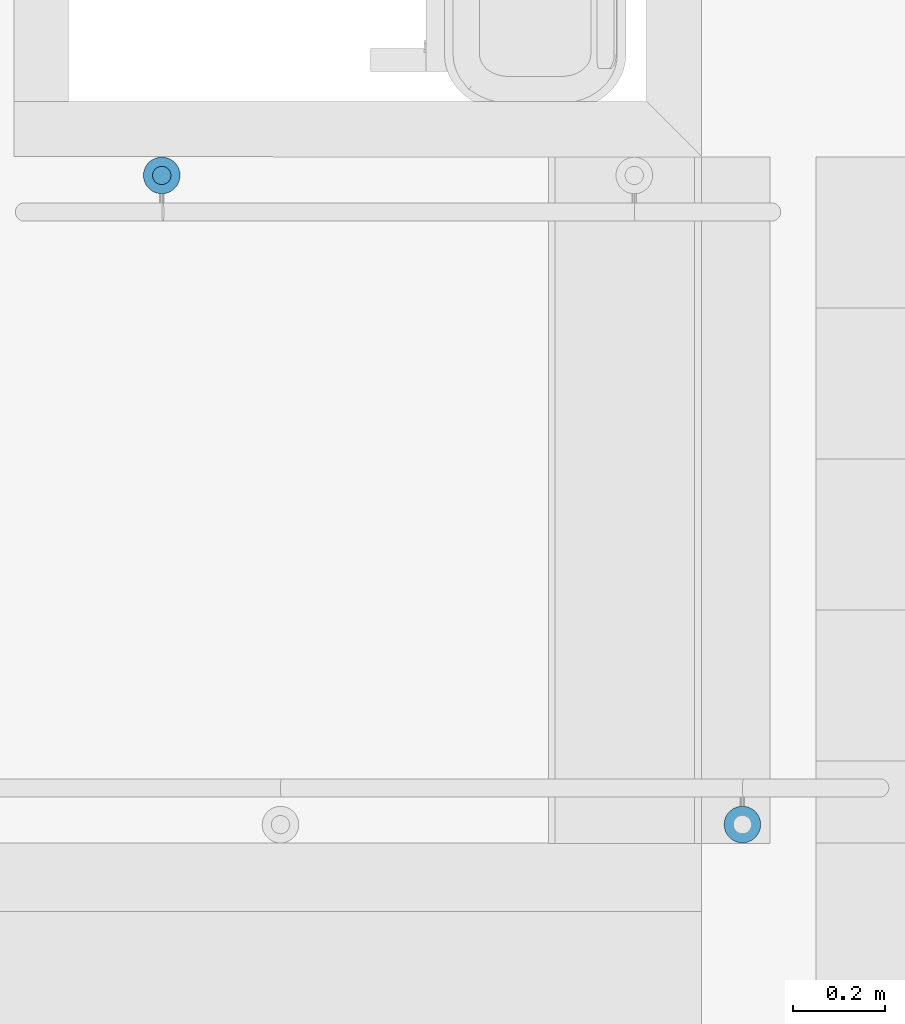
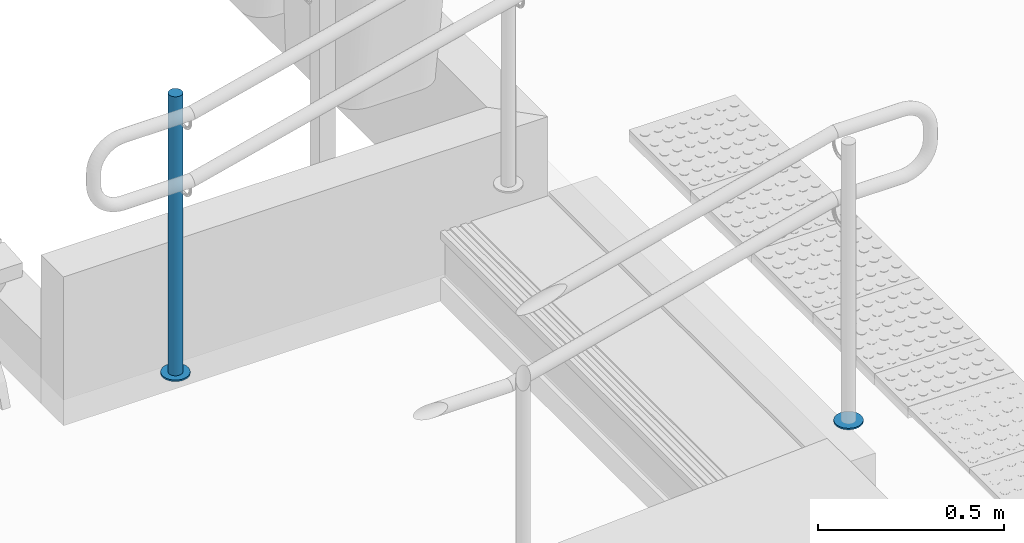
# One storey, part 90 of 237: 3 building element parts, 2 elements without a shape of their own.
"""IFC2X3 building model written with IfcOpenShell, lengths in millimetres."""

from ifc_helpers import new_model, entity, si_unit, converted_unit, derived_unit, money_unit, direction, frame, origin_with_axes, place, context, subcontext, project, spatial, faceted_brep, material, type_object, element, aggregate, save


model = new_model("IFC2X3")

# Units and contexts
model_context = context("Model", 3, precision=0.01, world=origin_with_axes(), true_north=direction((0.0, 1.0)))
body_context = subcontext(model_context, "Body", "Model", "MODEL_VIEW")
ifc_project = project(units=[si_unit("LENGTHUNIT", "METRE", prefix="MILLI"), si_unit("AREAUNIT", "SQUARE_METRE"), si_unit("VOLUMEUNIT", "CUBIC_METRE"), converted_unit("PLANEANGLEUNIT", "DEGREE", entity("IfcPlaneAngleMeasure", 0.0174532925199), si_unit("PLANEANGLEUNIT", "RADIAN"), dimensions=[0, 0, 0, 0, 0, 0, 0]), money_unit("USD"), converted_unit("TIMEUNIT", "Year", entity("IfcTimeMeasure", 31556926.0), si_unit("TIMEUNIT", "SECOND"), dimensions=[0, 0, 1, 0, 0, 0, 0]), si_unit("MASSUNIT", "GRAM", prefix="KILO"), si_unit("THERMODYNAMICTEMPERATUREUNIT", "DEGREE_CELSIUS"), si_unit("LUMINOUSINTENSITYUNIT", "LUMEN"), si_unit("ENERGYUNIT", "JOULE", prefix="MEGA"), derived_unit("THERMALCONDUCTANCEUNIT", [(si_unit("POWERUNIT", "WATT"), 1), (si_unit("LENGTHUNIT", "METRE"), -1), (si_unit("THERMODYNAMICTEMPERATUREUNIT", "KELVIN"), -1)]), derived_unit("SPECIFICHEATCAPACITYUNIT", [(si_unit("ENERGYUNIT", "JOULE"), 1), (si_unit("MASSUNIT", "GRAM", prefix="KILO"), -1), (si_unit("THERMODYNAMICTEMPERATUREUNIT", "KELVIN"), -1)]), derived_unit("MASSDENSITYUNIT", [(si_unit("MASSUNIT", "GRAM", prefix="KILO"), 1), (si_unit("VOLUMEUNIT", "CUBIC_METRE"), -1)])], contexts=[model_context])

# Site, building, storey
site_placement = place(None, origin_with_axes())
site = spatial("IfcSite", under=ifc_project, at=site_placement, Name="Local", CompositionType="ELEMENT")
building_placement = place(site_placement, origin_with_axes())
building = spatial("IfcBuilding", under=site, at=building_placement, Name="Construção", CompositionType="ELEMENT")
storey_placement = place(building_placement, origin_with_axes())
storey = spatial("IfcBuildingStorey", under=building, at=storey_placement, Name="Pavimento Térreo", CompositionType="ELEMENT", Elevation=0.0)

# Railing, building element parts
railing_type = type_object("IfcRailingType", Name="Tipo de Guarda-Corpo", PredefinedType="NOTDEFINED")
railing_1_placement = place(storey_placement, frame((53321.2844677, 26654.8714921, -1624.61279054), z_axis=(0.0, 0.0, 1.0), x_axis=(1.0, 0.0, 0.0)))
railing_1 = element("IfcRailing", 1, at=railing_1_placement, inside=storey, type_object=railing_type, Name="Guarda-Corpo - 001", PredefinedType="NOTDEFINED")
ifc_material_1 = material(Name="Aço - Inoxidável")
building_element_part_1_placement = place(railing_1_placement, origin_with_axes())
building_element_part_1 = element("IfcBuildingElementPart", 2, at=building_element_part_1_placement, material=ifc_material_1, Name="Aço - Inoxidável", context=body_context, shape_type="Brep", body=[
    faceted_brep([(-5435.16584143, -20.3038449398, 14.9461964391), (-5438.63880498, -20.0, 14.9461964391), (-5438.63880498, -20.0, 929.946196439), (-5435.16584143, -20.3038449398, 929.946196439), (-5442.11176853, -20.3038449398, 14.9461964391), (-5431.79840211, -21.2061475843, 14.9461964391), (-5428.63880498, -22.6794919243, 14.9461964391), (-5425.78305279, -24.6791111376, 14.9461964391), (-5423.31791612, -27.1442478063, 14.9461964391), (-5421.3182969, -30.0, 14.9461964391), (-5419.84495256, -33.1595971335, 14.9461964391), (-5418.94264992, -36.5270364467, 14.9461964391), (-5418.63880498, -40.0, 14.9461964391), (-5418.94264992, -43.4729635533, 14.9461964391), (-5419.84495256, -46.8404028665, 14.9461964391), (-5421.3182969, -50.0, 14.9461964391), (-5423.31791612, -52.8557521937, 14.9461964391), (-5425.78305279, -55.3208888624, 14.9461964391), (-5428.63880498, -57.3205080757, 14.9461964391), (-5431.79840211, -58.7938524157, 14.9461964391), (-5435.16584143, -59.6961550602, 14.9461964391), (-5438.63880498, -60.0, 14.9461964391), (-5442.11176853, -59.6961550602, 14.9461964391), (-5445.47920785, -58.7938524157, 14.9461964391), (-5448.63880498, -57.3205080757, 14.9461964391), (-5451.49455717, -55.3208888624, 14.9461964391), (-5453.95969384, -52.8557521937, 14.9461964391), (-5455.95931306, -50.0, 14.9461964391), (-5457.4326574, -46.8404028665, 14.9461964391), (-5458.33496004, -43.4729635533, 14.9461964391), (-5458.63880498, -40.0, 14.9461964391), (-5458.33496004, -36.5270364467, 14.9461964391), (-5457.4326574, -33.1595971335, 14.9461964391), (-5455.95931306, -30.0, 14.9461964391), (-5453.95969384, -27.1442478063, 14.9461964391), (-5451.49455717, -24.6791111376, 14.9461964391), (-5448.63880498, -22.6794919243, 14.9461964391), (-5445.47920785, -21.2061475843, 14.9461964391), (-5442.11176853, -20.3038449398, 929.946196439), (-5418.94264992, -43.4729635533, 929.946196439), (-5418.63880498, -40.0, 929.946196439), (-5418.94264992, -36.5270364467, 929.946196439), (-5419.84495256, -33.1595971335, 929.946196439), (-5421.3182969, -30.0, 929.946196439), (-5423.31791612, -27.1442478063, 929.946196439), (-5425.78305279, -24.6791111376, 929.946196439), (-5428.63880498, -22.6794919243, 929.946196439), (-5431.79840211, -21.2061475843, 929.946196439), (-5445.47920785, -21.2061475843, 929.946196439), (-5448.63880498, -22.6794919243, 929.946196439), (-5451.49455717, -24.6791111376, 929.946196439), (-5453.95969384, -27.1442478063, 929.946196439), (-5455.95931306, -30.0, 929.946196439), (-5457.4326574, -33.1595971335, 929.946196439), (-5458.33496004, -36.5270364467, 929.946196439), (-5458.63880498, -40.0, 929.946196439), (-5458.33496004, -43.4729635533, 929.946196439), (-5457.4326574, -46.8404028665, 929.946196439), (-5455.95931306, -50.0, 929.946196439), (-5453.95969384, -52.8557521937, 929.946196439), (-5451.49455717, -55.3208888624, 929.946196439), (-5448.63880498, -57.3205080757, 929.946196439), (-5445.47920785, -58.7938524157, 929.946196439), (-5442.11176853, -59.6961550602, 929.946196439), (-5438.63880498, -60.0, 929.946196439), (-5435.16584143, -59.6961550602, 929.946196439), (-5431.79840211, -58.7938524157, 929.946196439), (-5428.63880498, -57.3205080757, 929.946196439), (-5425.78305279, -55.3208888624, 929.946196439), (-5423.31791612, -52.8557521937, 929.946196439), (-5421.3182969, -50.0, 929.946196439), (-5419.84495256, -46.8404028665, 929.946196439)], [[[0, 1, 2, 3]], [[4, 1, 0, 5, 6, 7, 8, 9, 10, 11, 12, 13, 14, 15, 16, 17, 18, 19, 20, 21, 22, 23, 24, 25, 26, 27, 28, 29, 30, 31, 32, 33, 34, 35, 36, 37]], [[1, 4, 38, 2]], [[39, 40, 41, 42, 43, 44, 45, 46, 47, 3, 2, 38, 48, 49, 50, 51, 52, 53, 54, 55, 56, 57, 58, 59, 60, 61, 62, 63, 64, 65, 66, 67, 68, 69, 70, 71]], [[5, 0, 3, 47]], [[6, 5, 47, 46]], [[7, 6, 46, 45]], [[8, 7, 45, 44]], [[9, 8, 44, 43]], [[10, 9, 43, 42]], [[11, 10, 42, 41]], [[12, 11, 41, 40]], [[13, 12, 40, 39]], [[14, 13, 39, 71]], [[15, 14, 71, 70]], [[16, 15, 70, 69]], [[17, 16, 69, 68]], [[18, 17, 68, 67]], [[19, 18, 67, 66]], [[20, 19, 66, 65]], [[21, 20, 65, 64]], [[22, 21, 64, 63]], [[23, 22, 63, 62]], [[24, 23, 62, 61]], [[25, 24, 61, 60]], [[26, 25, 60, 59]], [[27, 26, 59, 58]], [[28, 27, 58, 57]], [[29, 28, 57, 56]], [[30, 29, 56, 55]], [[31, 30, 55, 54]], [[32, 31, 54, 53]], [[33, 32, 53, 52]], [[34, 33, 52, 51]], [[35, 34, 51, 50]], [[36, 35, 50, 49]], [[37, 36, 49, 48]], [[4, 37, 48, 38]]]),
])
ifc_material_2 = material(Name="Alumínio")
building_element_part_2_placement = place(railing_1_placement, origin_with_axes())
building_element_part_2 = element("IfcBuildingElementPart", 3, at=building_element_part_2_placement, material=ifc_material_2, Name="Alumínio", context=body_context, shape_type="Brep", body=[
    faceted_brep([(-5478.63880498, -40.0, 9.94619643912), (-5478.0311151, -46.9459271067, 9.94619643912), (-5478.0311151, -46.9459271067, 14.9461964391), (-5478.63880498, -40.0, 14.9461964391), (-5478.0311151, -33.0540728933, 9.94619643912), (-5476.22650981, -26.319194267, 9.94619643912), (-5473.27982113, -20.0, 9.94619643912), (-5469.28058271, -14.2884956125, 9.94619643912), (-5464.35030937, -9.35822227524, 9.94619643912), (-5458.63880498, -5.35898384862, 9.94619643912), (-5452.31961071, -2.41229516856, 9.94619643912), (-5445.58473209, -0.607689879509, 9.94619643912), (-5438.63880498, 0.0, 9.94619643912), (-5431.69287787, -0.607689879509, 9.94619643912), (-5424.95799925, -2.41229516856, 9.94619643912), (-5418.63880498, -5.35898384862, 9.94619643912), (-5412.92730059, -9.35822227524, 9.94619643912), (-5407.99702726, -14.2884956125, 9.94619643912), (-5403.99778883, -20.0, 9.94619643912), (-5401.05110015, -26.319194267, 9.94619643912), (-5399.24649486, -33.0540728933, 9.94619643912), (-5398.63880498, -40.0, 9.94619643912), (-5399.24649486, -46.9459271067, 9.94619643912), (-5401.05110015, -53.680805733, 9.94619643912), (-5403.99778883, -60.0, 9.94619643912), (-5407.99702726, -65.7115043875, 9.94619643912), (-5412.92730059, -70.6417777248, 9.94619643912), (-5418.63880498, -74.6410161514, 9.94619643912), (-5424.95799925, -77.5877048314, 9.94619643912), (-5431.69287787, -79.3923101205, 9.94619643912), (-5438.63880498, -80.0, 9.94619643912), (-5445.58473209, -79.3923101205, 9.94619643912), (-5452.31961071, -77.5877048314, 9.94619643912), (-5458.63880498, -74.6410161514, 9.94619643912), (-5464.35030937, -70.6417777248, 9.94619643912), (-5469.28058271, -65.7115043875, 9.94619643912), (-5473.27982113, -60.0, 9.94619643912), (-5476.22650981, -53.680805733, 9.94619643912), (-5476.22650981, -53.680805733, 14.9461964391), (-5473.27982113, -60.0, 14.9461964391), (-5469.28058271, -65.7115043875, 14.9461964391), (-5464.35030937, -70.6417777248, 14.9461964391), (-5458.63880498, -74.6410161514, 14.9461964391), (-5452.31961071, -77.5877048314, 14.9461964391), (-5445.58473209, -79.3923101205, 14.9461964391), (-5438.63880498, -80.0, 14.9461964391), (-5431.69287787, -79.3923101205, 14.9461964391), (-5424.95799925, -77.5877048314, 14.9461964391), (-5418.63880498, -74.6410161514, 14.9461964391), (-5412.92730059, -70.6417777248, 14.9461964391), (-5407.99702726, -65.7115043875, 14.9461964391), (-5403.99778883, -60.0, 14.9461964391), (-5401.05110015, -53.680805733, 14.9461964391), (-5399.24649486, -46.9459271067, 14.9461964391), (-5398.63880498, -40.0, 14.9461964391), (-5399.24649486, -33.0540728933, 14.9461964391), (-5401.05110015, -26.319194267, 14.9461964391), (-5403.99778883, -20.0, 14.9461964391), (-5407.99702726, -14.2884956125, 14.9461964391), (-5412.92730059, -9.35822227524, 14.9461964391), (-5418.63880498, -5.35898384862, 14.9461964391), (-5424.95799925, -2.41229516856, 14.9461964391), (-5431.69287787, -0.607689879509, 14.9461964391), (-5438.63880498, 0.0, 14.9461964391), (-5445.58473209, -0.607689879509, 14.9461964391), (-5452.31961071, -2.41229516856, 14.9461964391), (-5458.63880498, -5.35898384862, 14.9461964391), (-5464.35030937, -9.35822227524, 14.9461964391), (-5469.28058271, -14.2884956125, 14.9461964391), (-5473.27982113, -20.0, 14.9461964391), (-5476.22650981, -26.319194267, 14.9461964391), (-5478.0311151, -33.0540728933, 14.9461964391)], [[[0, 1, 2, 3]], [[0, 4, 5, 6, 7, 8, 9, 10, 11, 12, 13, 14, 15, 16, 17, 18, 19, 20, 21, 22, 23, 24, 25, 26, 27, 28, 29, 30, 31, 32, 33, 34, 35, 36, 37, 1]], [[1, 37, 38, 2]], [[3, 2, 38, 39, 40, 41, 42, 43, 44, 45, 46, 47, 48, 49, 50, 51, 52, 53, 54, 55, 56, 57, 58, 59, 60, 61, 62, 63, 64, 65, 66, 67, 68, 69, 70, 71]], [[4, 0, 3, 71]], [[5, 4, 71, 70]], [[6, 5, 70, 69]], [[7, 6, 69, 68]], [[8, 7, 68, 67]], [[9, 8, 67, 66]], [[10, 9, 66, 65]], [[11, 10, 65, 64]], [[12, 11, 64, 63]], [[13, 12, 63, 62]], [[14, 13, 62, 61]], [[15, 14, 61, 60]], [[16, 15, 60, 59]], [[17, 16, 59, 58]], [[18, 17, 58, 57]], [[19, 18, 57, 56]], [[20, 19, 56, 55]], [[21, 20, 55, 54]], [[22, 21, 54, 53]], [[23, 22, 53, 52]], [[24, 23, 52, 51]], [[25, 24, 51, 50]], [[26, 25, 50, 49]], [[27, 26, 49, 48]], [[28, 27, 48, 47]], [[29, 28, 47, 46]], [[30, 29, 46, 45]], [[31, 30, 45, 44]], [[32, 31, 44, 43]], [[33, 32, 43, 42]], [[34, 33, 42, 41]], [[35, 34, 41, 40]], [[36, 35, 40, 39]], [[37, 36, 39, 38]]]),
])
aggregate(railing_1, [building_element_part_1, building_element_part_2])

# Railing, building element part
railing_2_placement = place(storey_placement, frame((44000.0, 26000.0, -1614.15280207), z_axis=(0.0, 0.0, 1.0), x_axis=(1.0, 0.0, 0.0)))
railing_2 = element("IfcRailing", 4, at=railing_2_placement, inside=storey, type_object=railing_type, Name="Guarda-Corpo - 001", PredefinedType="NOTDEFINED")
building_element_part_3_placement = place(railing_2_placement, origin_with_axes())
building_element_part_3 = element("IfcBuildingElementPart", 5, at=building_element_part_3_placement, material=ifc_material_2, Name="Alumínio", context=body_context, shape_type="Brep", body=[
    faceted_brep([(5191.63104304, -803.707398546, 257.278068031), (5191.02188919, -796.761599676, 257.278068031), (5191.02188919, -796.761599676, 262.278068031), (5191.63104304, -803.707398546, 262.278068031), (5191.02481716, -810.65345358, 257.278068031), (5189.22163141, -817.388712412, 257.278068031), (5186.27627469, -823.708527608, 257.278068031), (5182.27824015, -829.420874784, 257.278068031), (5177.34900608, -834.35218716, 257.278068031), (5171.63834473, -838.352629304, 257.278068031), (5165.31977167, -841.300649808, 257.278068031), (5158.58527355, -843.10667456, 257.278068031), (5151.63947468, -843.71582841, 257.278068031), (5144.69341965, -843.109602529, 257.278068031), (5137.95816081, -841.306416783, 257.278068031), (5131.63834562, -838.361060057, 257.278068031), (5125.92599844, -834.363025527, 257.278068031), (5120.99468607, -829.433791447, 257.278068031), (5116.99424392, -823.723130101, 257.278068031), (5114.04622342, -817.404557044, 257.278068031), (5112.24019867, -810.670058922, 257.278068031), (5111.63104482, -803.724260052, 257.278068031), (5112.2372707, -796.778205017, 257.278068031), (5114.04045644, -790.042946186, 257.278068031), (5116.98581317, -783.723130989, 257.278068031), (5120.9838477, -778.010783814, 257.278068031), (5125.91308178, -773.079471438, 257.278068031), (5131.62374313, -769.079029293, 257.278068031), (5137.94231618, -766.13100879, 257.278068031), (5144.6768143, -764.324984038, 257.278068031), (5151.62261317, -763.715830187, 257.278068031), (5158.56866821, -764.322056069, 257.278068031), (5165.30392704, -766.125241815, 257.278068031), (5171.62374224, -769.070598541, 257.278068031), (5177.33608941, -773.068633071, 257.278068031), (5182.26740179, -777.997867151, 257.278068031), (5186.26784393, -783.708528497, 257.278068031), (5189.21586444, -790.027101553, 257.278068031), (5189.21586444, -790.027101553, 262.278068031), (5186.26784393, -783.708528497, 262.278068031), (5182.26740179, -777.997867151, 262.278068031), (5177.33608941, -773.068633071, 262.278068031), (5171.62374224, -769.070598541, 262.278068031), (5165.30392704, -766.125241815, 262.278068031), (5158.56866821, -764.322056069, 262.278068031), (5151.62261317, -763.715830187, 262.278068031), (5144.6768143, -764.324984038, 262.278068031), (5137.94231618, -766.13100879, 262.278068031), (5131.62374313, -769.079029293, 262.278068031), (5125.91308178, -773.079471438, 262.278068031), (5120.9838477, -778.010783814, 262.278068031), (5116.98581317, -783.723130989, 262.278068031), (5114.04045644, -790.042946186, 262.278068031), (5112.2372707, -796.778205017, 262.278068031), (5111.63104482, -803.724260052, 262.278068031), (5112.24019867, -810.670058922, 262.278068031), (5114.04622342, -817.404557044, 262.278068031), (5116.99424392, -823.723130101, 262.278068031), (5120.99468607, -829.433791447, 262.278068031), (5125.92599844, -834.363025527, 262.278068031), (5131.63834562, -838.361060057, 262.278068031), (5137.95816081, -841.306416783, 262.278068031), (5144.69341965, -843.109602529, 262.278068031), (5151.63947468, -843.71582841, 262.278068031), (5158.58527355, -843.10667456, 262.278068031), (5165.31977167, -841.300649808, 262.278068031), (5171.63834473, -838.352629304, 262.278068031), (5177.34900608, -834.35218716, 262.278068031), (5182.27824015, -829.420874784, 262.278068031), (5186.27627469, -823.708527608, 262.278068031), (5189.22163141, -817.388712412, 262.278068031), (5191.02481716, -810.65345358, 262.278068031)], [[[0, 1, 2, 3]], [[0, 4, 5, 6, 7, 8, 9, 10, 11, 12, 13, 14, 15, 16, 17, 18, 19, 20, 21, 22, 23, 24, 25, 26, 27, 28, 29, 30, 31, 32, 33, 34, 35, 36, 37, 1]], [[1, 37, 38, 2]], [[3, 2, 38, 39, 40, 41, 42, 43, 44, 45, 46, 47, 48, 49, 50, 51, 52, 53, 54, 55, 56, 57, 58, 59, 60, 61, 62, 63, 64, 65, 66, 67, 68, 69, 70, 71]], [[4, 0, 3, 71]], [[5, 4, 71, 70]], [[6, 5, 70, 69]], [[7, 6, 69, 68]], [[8, 7, 68, 67]], [[9, 8, 67, 66]], [[10, 9, 66, 65]], [[11, 10, 65, 64]], [[12, 11, 64, 63]], [[13, 12, 63, 62]], [[14, 13, 62, 61]], [[15, 14, 61, 60]], [[16, 15, 60, 59]], [[17, 16, 59, 58]], [[18, 17, 58, 57]], [[19, 18, 57, 56]], [[20, 19, 56, 55]], [[21, 20, 55, 54]], [[22, 21, 54, 53]], [[23, 22, 53, 52]], [[24, 23, 52, 51]], [[25, 24, 51, 50]], [[26, 25, 50, 49]], [[27, 26, 49, 48]], [[28, 27, 48, 47]], [[29, 28, 47, 46]], [[30, 29, 46, 45]], [[31, 30, 45, 44]], [[32, 31, 44, 43]], [[33, 32, 43, 42]], [[34, 33, 42, 41]], [[35, 34, 41, 40]], [[36, 35, 40, 39]], [[37, 36, 39, 38]]]),
])
aggregate(railing_2, [building_element_part_3])

save(model, "model.ifc")
